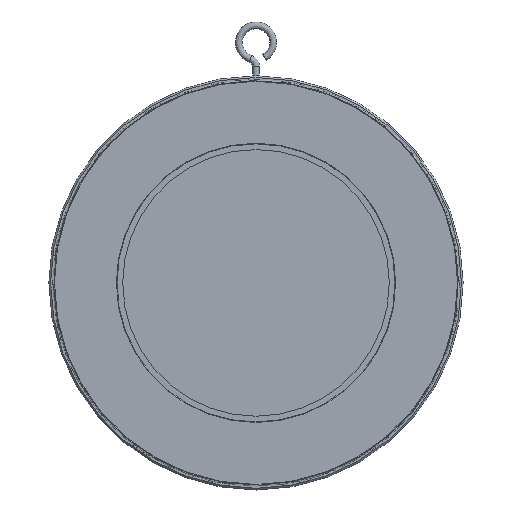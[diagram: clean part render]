
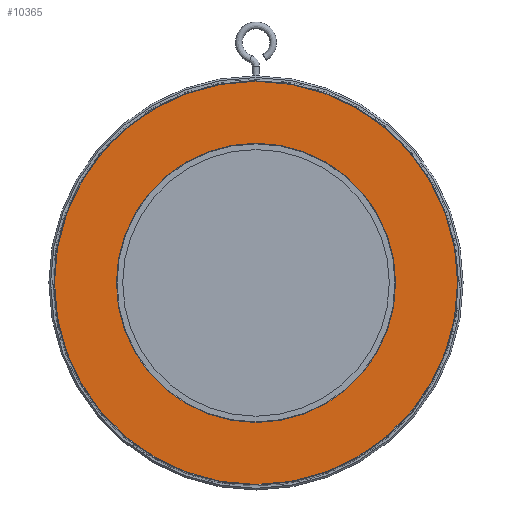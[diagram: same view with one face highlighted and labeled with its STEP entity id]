
A CAD part, left-side view. The second image highlights one B-rep face of the part: STEP entity #10365.
In plain terms, the highlighted planar face has unit normal (-1, 0, 0).
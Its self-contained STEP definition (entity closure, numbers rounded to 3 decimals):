
#16 = DIRECTION ( 'NONE',  ( 0., 0., 1. ) ) ;
#78 = AXIS2_PLACEMENT_3D ( 'NONE', #7283, #421, #8434 ) ;
#122 = EDGE_CURVE ( 'NONE', #1097, #591, #8247, .T. ) ;
#161 = DIRECTION ( 'NONE',  ( 0., 0., -1. ) ) ;
#209 = FACE_BOUND ( 'NONE', #522, .T. ) ;
#421 = DIRECTION ( 'NONE',  ( 1., 0., 0. ) ) ;
#448 = CIRCLE ( 'NONE', #5974, 352.353 ) ;
#522 = EDGE_LOOP ( 'NONE', ( #3562, #9321 ) ) ;
#591 = VERTEX_POINT ( 'NONE', #4970 ) ;
#1097 = VERTEX_POINT ( 'NONE', #13630 ) ;
#1305 = ORIENTED_EDGE ( 'NONE', *, *, #3102, .F. ) ;
#2611 = VERTEX_POINT ( 'NONE', #3756 ) ;
#2795 = AXIS2_PLACEMENT_3D ( 'NONE', #5569, #13584, #6743 ) ;
#2823 = AXIS2_PLACEMENT_3D ( 'NONE', #9158, #6336, #7800 ) ;
#3102 = EDGE_CURVE ( 'NONE', #7455, #2611, #448, .T. ) ;
#3562 = ORIENTED_EDGE ( 'NONE', *, *, #122, .T. ) ;
#3756 = CARTESIAN_POINT ( 'NONE',  ( -31., 0., 352.353 ) ) ;
#4970 = CARTESIAN_POINT ( 'NONE',  ( -31., 0., -244. ) ) ;
#5333 = ORIENTED_EDGE ( 'NONE', *, *, #14159, .F. ) ;
#5408 = AXIS2_PLACEMENT_3D ( 'NONE', #5869, #7031, #161 ) ;
#5569 = CARTESIAN_POINT ( 'NONE',  ( -31., 0., 0. ) ) ;
#5869 = CARTESIAN_POINT ( 'NONE',  ( -31., 0., 0. ) ) ;
#5974 = AXIS2_PLACEMENT_3D ( 'NONE', #13738, #6889, #16 ) ;
#6336 = DIRECTION ( 'NONE',  ( 1., 0., 0. ) ) ;
#6743 = DIRECTION ( 'NONE',  ( 0., 0., 1. ) ) ;
#6889 = DIRECTION ( 'NONE',  ( 1., 0., 0. ) ) ;
#6977 = PLANE ( 'NONE',  #5408 ) ;
#7031 = DIRECTION ( 'NONE',  ( 1., 0., 0. ) ) ;
#7283 = CARTESIAN_POINT ( 'NONE',  ( -31., 0., 0. ) ) ;
#7455 = VERTEX_POINT ( 'NONE', #12947 ) ;
#7800 = DIRECTION ( 'NONE',  ( 0., 0., 1. ) ) ;
#8247 = CIRCLE ( 'NONE', #2823, 244. ) ;
#8434 = DIRECTION ( 'NONE',  ( 0., 0., 1. ) ) ;
#9158 = CARTESIAN_POINT ( 'NONE',  ( -31., 0., 0. ) ) ;
#9321 = ORIENTED_EDGE ( 'NONE', *, *, #14825, .T. ) ;
#10365 = ADVANCED_FACE ( 'NONE', ( #209, #11662 ), #6977, .F. ) ;
#11232 = CIRCLE ( 'NONE', #2795, 244. ) ;
#11662 = FACE_OUTER_BOUND ( 'NONE', #11676, .T. ) ;
#11676 = EDGE_LOOP ( 'NONE', ( #5333, #1305 ) ) ;
#12947 = CARTESIAN_POINT ( 'NONE',  ( -31., 0., -352.353 ) ) ;
#13584 = DIRECTION ( 'NONE',  ( 1., 0., 0. ) ) ;
#13630 = CARTESIAN_POINT ( 'NONE',  ( -31., 0., 244. ) ) ;
#13738 = CARTESIAN_POINT ( 'NONE',  ( -31., 0., 0. ) ) ;
#13782 = CIRCLE ( 'NONE', #78, 352.353 ) ;
#14159 = EDGE_CURVE ( 'NONE', #2611, #7455, #13782, .T. ) ;
#14825 = EDGE_CURVE ( 'NONE', #591, #1097, #11232, .T. ) ;
